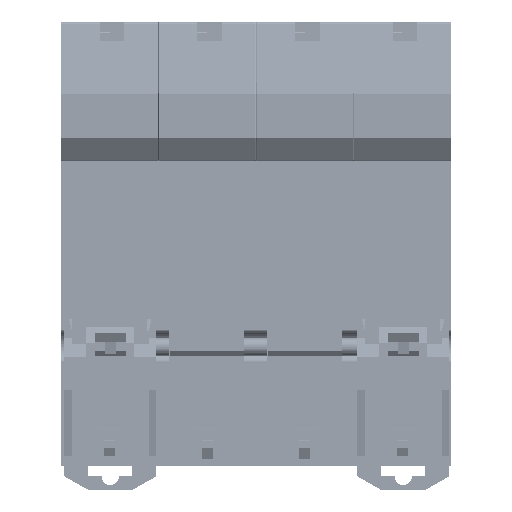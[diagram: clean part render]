
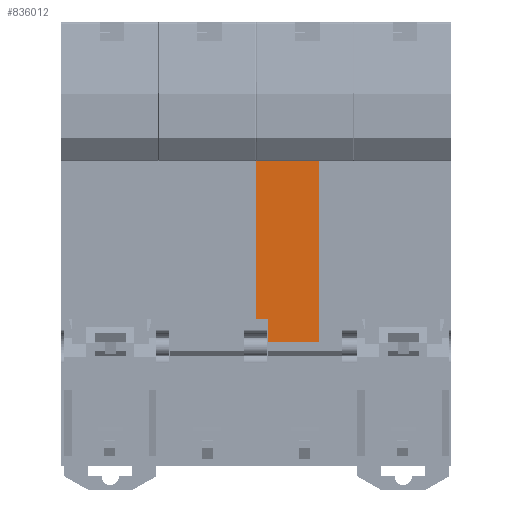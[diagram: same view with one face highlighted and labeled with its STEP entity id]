
A CAD part, left-side view. The second image highlights one B-rep face of the part: STEP entity #836012.
In plain terms, the highlighted planar face has unit normal (-1, 0, 0).
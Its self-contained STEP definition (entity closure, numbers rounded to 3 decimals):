
#3781 = DIRECTION ( 'NONE',  ( 0., -1., 0. ) ) ;
#5846 = CARTESIAN_POINT ( 'NONE',  ( -2.5, 24.1, 22.6 ) ) ;
#27768 = LINE ( 'NONE', #359092, #220385 ) ;
#36293 = VERTEX_POINT ( 'NONE', #537339 ) ;
#40162 = CARTESIAN_POINT ( 'NONE',  ( -2.5, 24.1, 58.1 ) ) ;
#47072 = CARTESIAN_POINT ( 'NONE',  ( -2.5, 35.6, 58.1 ) ) ;
#63921 = AXIS2_PLACEMENT_3D ( 'NONE', #47072, #378325, #240638 ) ;
#85046 = EDGE_CURVE ( 'NONE', #190504, #753703, #699228, .T. ) ;
#116599 = ORIENTED_EDGE ( 'NONE', *, *, #85046, .T. ) ;
#124330 = VERTEX_POINT ( 'NONE', #546206 ) ;
#134019 = DIRECTION ( 'NONE',  ( 0., 0., 1. ) ) ;
#155934 = ORIENTED_EDGE ( 'NONE', *, *, #810025, .T. ) ;
#190504 = VERTEX_POINT ( 'NONE', #439545 ) ;
#203695 = EDGE_CURVE ( 'NONE', #36293, #190504, #27768, .T. ) ;
#208811 = ORIENTED_EDGE ( 'NONE', *, *, #758861, .T. ) ;
#212124 = VECTOR ( 'NONE', #674181, 1000. ) ;
#220385 = VECTOR ( 'NONE', #754568, 1000. ) ;
#239921 = ORIENTED_EDGE ( 'NONE', *, *, #835233, .T. ) ;
#240638 = DIRECTION ( 'NONE',  ( 0., 0., 1. ) ) ;
#250458 = CARTESIAN_POINT ( 'NONE',  ( -2.5, 35.6, 58.1 ) ) ;
#282145 = VERTEX_POINT ( 'NONE', #40162 ) ;
#282771 = CARTESIAN_POINT ( 'NONE',  ( -2.5, 56.7, 58.1 ) ) ;
#309432 = VECTOR ( 'NONE', #3781, 1000. ) ;
#314045 = VECTOR ( 'NONE', #509911, 1000. ) ;
#320875 = EDGE_CURVE ( 'NONE', #753703, #680001, #434424, .T. ) ;
#322632 = VECTOR ( 'NONE', #775171, 1000. ) ;
#356410 = VECTOR ( 'NONE', #134019, 1000. ) ;
#359092 = CARTESIAN_POINT ( 'NONE',  ( -2.5, 35.6, 26.9 ) ) ;
#372484 = CARTESIAN_POINT ( 'NONE',  ( -2.5, 33.45, 58.1 ) ) ;
#378325 = DIRECTION ( 'NONE',  ( 1., 0., 0. ) ) ;
#399641 = CARTESIAN_POINT ( 'NONE',  ( -2.5, 35.6, 22.6 ) ) ;
#400825 = LINE ( 'NONE', #598575, #356410 ) ;
#403424 = LINE ( 'NONE', #282771, #212124 ) ;
#406719 = CARTESIAN_POINT ( 'NONE',  ( -2.5, 33.45, 22.6 ) ) ;
#434424 = LINE ( 'NONE', #399641, #309432 ) ;
#439545 = CARTESIAN_POINT ( 'NONE',  ( -2.5, 33.45, 26.9 ) ) ;
#444183 = LINE ( 'NONE', #250458, #322632 ) ;
#460065 = ORIENTED_EDGE ( 'NONE', *, *, #320875, .T. ) ;
#509911 = DIRECTION ( 'NONE',  ( 0., 0., -1. ) ) ;
#537339 = CARTESIAN_POINT ( 'NONE',  ( -2.5, 35.6, 26.9 ) ) ;
#546206 = CARTESIAN_POINT ( 'NONE',  ( -2.5, 35.6, 58.1 ) ) ;
#598575 = CARTESIAN_POINT ( 'NONE',  ( -2.5, 24.1, 58.1 ) ) ;
#632161 = FACE_OUTER_BOUND ( 'NONE', #747425, .T. ) ;
#674181 = DIRECTION ( 'NONE',  ( 0., 1., 0. ) ) ;
#680001 = VERTEX_POINT ( 'NONE', #5846 ) ;
#699228 = LINE ( 'NONE', #372484, #314045 ) ;
#705127 = PLANE ( 'NONE',  #63921 ) ;
#745204 = ORIENTED_EDGE ( 'NONE', *, *, #203695, .T. ) ;
#747425 = EDGE_LOOP ( 'NONE', ( #745204, #116599, #460065, #208811, #155934, #239921 ) ) ;
#753703 = VERTEX_POINT ( 'NONE', #406719 ) ;
#754568 = DIRECTION ( 'NONE',  ( 0., -1., 0. ) ) ;
#758861 = EDGE_CURVE ( 'NONE', #680001, #282145, #400825, .T. ) ;
#775171 = DIRECTION ( 'NONE',  ( 0., 0., -1. ) ) ;
#810025 = EDGE_CURVE ( 'NONE', #282145, #124330, #403424, .T. ) ;
#835233 = EDGE_CURVE ( 'NONE', #124330, #36293, #444183, .T. ) ;
#836012 = ADVANCED_FACE ( 'NONE', ( #632161 ), #705127, .F. ) ;
